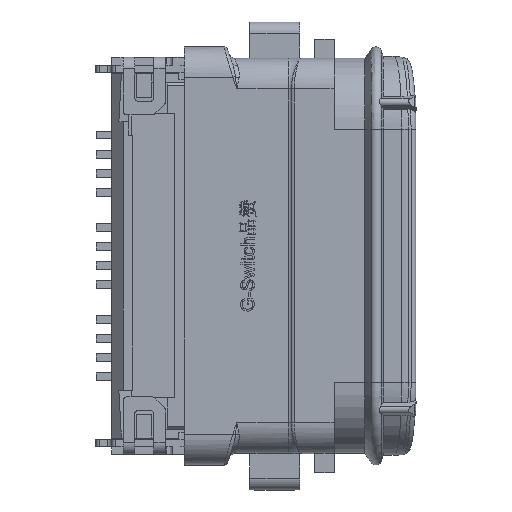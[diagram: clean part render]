
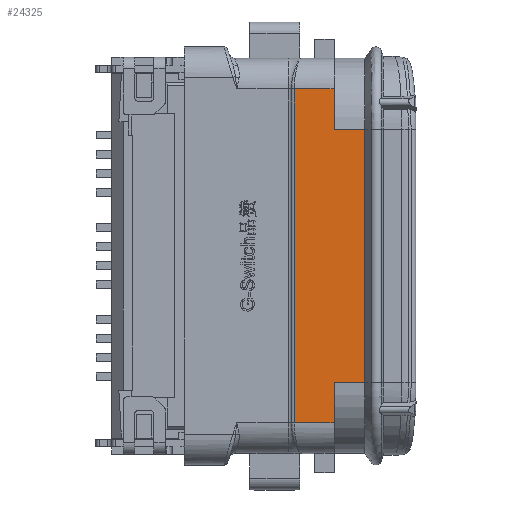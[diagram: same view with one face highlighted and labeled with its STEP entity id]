
A CAD part, top view. The second image highlights one B-rep face of the part: STEP entity #24325.
In plain terms, the highlighted planar face has unit normal (0, 0, 1).
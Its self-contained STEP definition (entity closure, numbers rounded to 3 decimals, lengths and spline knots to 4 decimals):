
#285 = VERTEX_POINT ( 'NONE', #60954 ) ;
#2411 = DIRECTION ( 'NONE',  ( 1., 0., 0. ) ) ;
#3255 = CARTESIAN_POINT ( 'NONE',  ( -4.2073, 8.3783, 1.7654 ) ) ;
#3553 = CARTESIAN_POINT ( 'NONE',  ( -3.1657, 17.0783, 1.7654 ) ) ;
#4594 = VERTEX_POINT ( 'NONE', #41714 ) ;
#6494 = VECTOR ( 'NONE', #41091, 1000. ) ;
#7676 = VERTEX_POINT ( 'NONE', #60821 ) ;
#10029 = CARTESIAN_POINT ( 'NONE',  ( -3.2865, 12.7283, 1.7654 ) ) ;
#11650 = EDGE_CURVE ( 'NONE', #12427, #13485, #37471, .T. ) ;
#12253 = VECTOR ( 'NONE', #41806, 1000. ) ;
#12427 = VERTEX_POINT ( 'NONE', #36703 ) ;
#12601 = LINE ( 'NONE', #60551, #12253 ) ;
#12688 = DIRECTION ( 'NONE',  ( 1., 0., 0. ) ) ;
#12904 = EDGE_CURVE ( 'NONE', #7676, #34087, #35702, .T. ) ;
#12938 = VECTOR ( 'NONE', #12688, 1000. ) ;
#13361 = CARTESIAN_POINT ( 'NONE',  ( -4.2073, 17.0783, 1.7654 ) ) ;
#13485 = VERTEX_POINT ( 'NONE', #27491 ) ;
#13883 = CARTESIAN_POINT ( 'NONE',  ( -2.3657, 9.4283, 1.7654 ) ) ;
#14149 = DIRECTION ( 'NONE',  ( 1., 0., 0. ) ) ;
#14271 = LINE ( 'NONE', #52993, #24952 ) ;
#15089 = ORIENTED_EDGE ( 'NONE', *, *, #55496, .T. ) ;
#15689 = CARTESIAN_POINT ( 'NONE',  ( -2.3657, 16.0283, 1.7654 ) ) ;
#16016 = EDGE_CURVE ( 'NONE', #285, #12427, #47852, .T. ) ;
#16660 = CARTESIAN_POINT ( 'NONE',  ( -3.1657, 9.4283, 1.7654 ) ) ;
#17628 = ORIENTED_EDGE ( 'NONE', *, *, #11650, .T. ) ;
#19252 = VERTEX_POINT ( 'NONE', #15689 ) ;
#19295 = EDGE_CURVE ( 'NONE', #285, #19252, #36019, .T. ) ;
#19597 = ORIENTED_EDGE ( 'NONE', *, *, #12904, .T. ) ;
#20380 = ORIENTED_EDGE ( 'NONE', *, *, #19295, .F. ) ;
#23588 = EDGE_CURVE ( 'NONE', #59149, #4594, #32034, .T. ) ;
#23793 = EDGE_LOOP ( 'NONE', ( #52185, #17628, #36248, #43243, #15089, #19597, #45849, #20380 ) ) ;
#24325 = ADVANCED_FACE ( 'NONE', ( #34150 ), #53501, .T. ) ;
#24445 = LINE ( 'NONE', #13361, #28594 ) ;
#24952 = VECTOR ( 'NONE', #60302, 1000. ) ;
#27491 = CARTESIAN_POINT ( 'NONE',  ( -4.2073, 17.0783, 1.7654 ) ) ;
#28594 = VECTOR ( 'NONE', #43190, 1000. ) ;
#32034 = LINE ( 'NONE', #33285, #12938 ) ;
#33285 = CARTESIAN_POINT ( 'NONE',  ( -4.2073, 8.3783, 1.7654 ) ) ;
#34087 = VERTEX_POINT ( 'NONE', #13883 ) ;
#34150 = FACE_OUTER_BOUND ( 'NONE', #23793, .T. ) ;
#35507 = VECTOR ( 'NONE', #2411, 1000. ) ;
#35702 = LINE ( 'NONE', #16660, #35507 ) ;
#36019 = LINE ( 'NONE', #50618, #6494 ) ;
#36248 = ORIENTED_EDGE ( 'NONE', *, *, #59274, .T. ) ;
#36703 = CARTESIAN_POINT ( 'NONE',  ( -3.1657, 17.0783, 1.7654 ) ) ;
#37471 = LINE ( 'NONE', #3553, #54658 ) ;
#38291 = DIRECTION ( 'NONE',  ( 0., 0., 1. ) ) ;
#41091 = DIRECTION ( 'NONE',  ( 1., 0., 0. ) ) ;
#41714 = CARTESIAN_POINT ( 'NONE',  ( -3.1657, 8.3783, 1.7654 ) ) ;
#41806 = DIRECTION ( 'NONE',  ( 0., 1., 0. ) ) ;
#42040 = VECTOR ( 'NONE', #60371, 1000. ) ;
#43190 = DIRECTION ( 'NONE',  ( 0., -1., 0. ) ) ;
#43243 = ORIENTED_EDGE ( 'NONE', *, *, #23588, .T. ) ;
#45762 = CARTESIAN_POINT ( 'NONE',  ( -3.1657, 16.0283, 1.7654 ) ) ;
#45849 = ORIENTED_EDGE ( 'NONE', *, *, #47148, .T. ) ;
#47148 = EDGE_CURVE ( 'NONE', #34087, #19252, #14271, .T. ) ;
#47852 = LINE ( 'NONE', #45762, #42040 ) ;
#50618 = CARTESIAN_POINT ( 'NONE',  ( -3.1657, 16.0283, 1.7654 ) ) ;
#50919 = DIRECTION ( 'NONE',  ( -1., 0., 0. ) ) ;
#52185 = ORIENTED_EDGE ( 'NONE', *, *, #16016, .T. ) ;
#52993 = CARTESIAN_POINT ( 'NONE',  ( -2.3657, 9.4283, 1.7654 ) ) ;
#53501 = PLANE ( 'NONE',  #56577 ) ;
#54658 = VECTOR ( 'NONE', #50919, 1000. ) ;
#55496 = EDGE_CURVE ( 'NONE', #4594, #7676, #12601, .T. ) ;
#56577 = AXIS2_PLACEMENT_3D ( 'NONE', #10029, #38291, #14149 ) ;
#59149 = VERTEX_POINT ( 'NONE', #3255 ) ;
#59274 = EDGE_CURVE ( 'NONE', #13485, #59149, #24445, .T. ) ;
#60302 = DIRECTION ( 'NONE',  ( 0., 1., 0. ) ) ;
#60371 = DIRECTION ( 'NONE',  ( 0., 1., 0. ) ) ;
#60551 = CARTESIAN_POINT ( 'NONE',  ( -3.1657, 8.3783, 1.7654 ) ) ;
#60821 = CARTESIAN_POINT ( 'NONE',  ( -3.1657, 9.4283, 1.7654 ) ) ;
#60954 = CARTESIAN_POINT ( 'NONE',  ( -3.1657, 16.0283, 1.7654 ) ) ;
